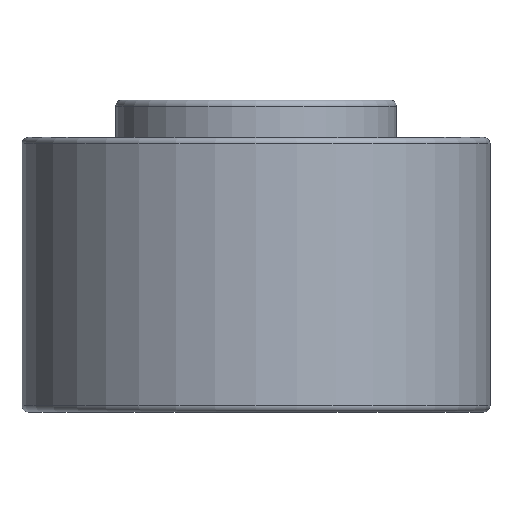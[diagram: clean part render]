
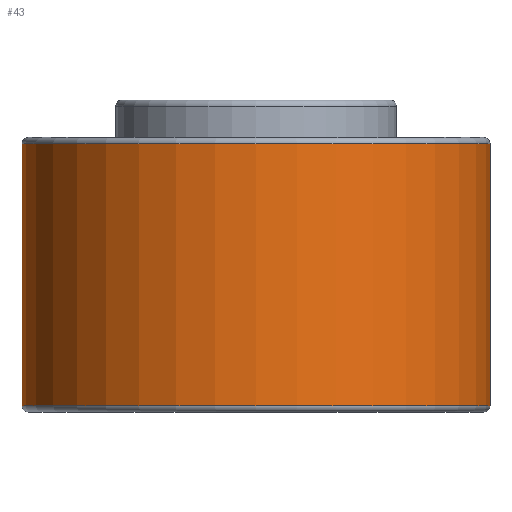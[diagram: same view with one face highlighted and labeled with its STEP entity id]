
A CAD part, front view. The second image highlights one B-rep face of the part: STEP entity #43.
In plain terms, the highlighted cylindrical face has radius 37.5 mm (diameter 75 mm), a full revolution.
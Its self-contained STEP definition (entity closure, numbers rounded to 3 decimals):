
#43=ADVANCED_FACE('',(#56,#57),#53,.T.);
#53=CYLINDRICAL_SURFACE('',#141,37.5);
#56=FACE_BOUND('',#74,.T.);
#57=FACE_BOUND('',#75,.T.);
#74=EDGE_LOOP('',(#92));
#75=EDGE_LOOP('',(#93));
#92=ORIENTED_EDGE('',*,*,#120,.F.);
#93=ORIENTED_EDGE('',*,*,#121,.T.);
#110=VERTEX_POINT('',#200);
#111=VERTEX_POINT('',#202);
#120=EDGE_CURVE('',#110,#110,#129,.T.);
#121=EDGE_CURVE('',#111,#111,#130,.T.);
#129=CIRCLE('',#139,37.5);
#130=CIRCLE('',#140,37.5);
#139=AXIS2_PLACEMENT_3D('',#199,#160,#161);
#140=AXIS2_PLACEMENT_3D('',#201,#162,#163);
#141=AXIS2_PLACEMENT_3D('',#203,#164,#165);
#160=DIRECTION('',(0.,0.,-1.));
#161=DIRECTION('',(-1.,0.,0.));
#162=DIRECTION('',(0.,0.,-1.));
#163=DIRECTION('',(-1.,0.,0.));
#164=DIRECTION('',(0.,0.,-1.));
#165=DIRECTION('',(-1.,0.,0.));
#199=CARTESIAN_POINT('',(0.,0.,1.));
#200=CARTESIAN_POINT('',(-37.5,0.,1.));
#201=CARTESIAN_POINT('',(0.,0.,43.));
#202=CARTESIAN_POINT('',(-37.5,0.,43.));
#203=CARTESIAN_POINT('',(0.,0.,0.));
